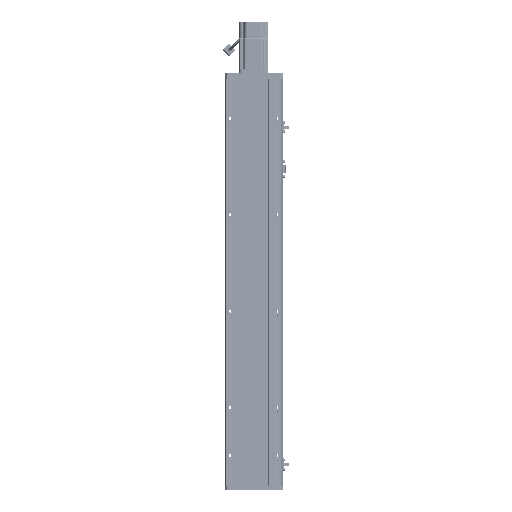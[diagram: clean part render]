
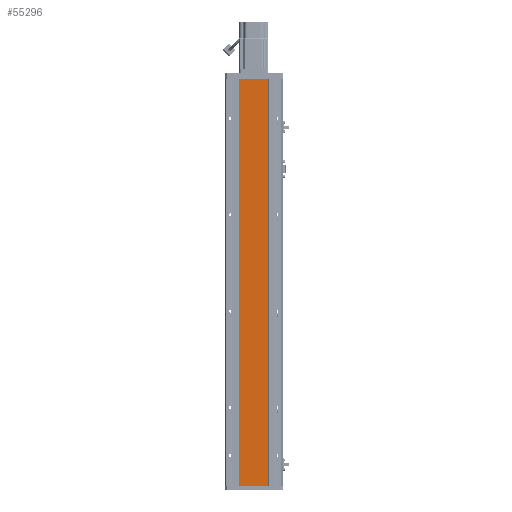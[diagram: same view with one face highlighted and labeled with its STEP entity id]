
A CAD part, front view. The second image highlights one B-rep face of the part: STEP entity #55296.
In plain terms, the highlighted planar face has unit normal (0, -1, 0).
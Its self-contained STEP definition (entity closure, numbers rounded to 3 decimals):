
#5113 = VERTEX_POINT ( 'NONE', #49992 ) ;
#6751 = EDGE_CURVE ( 'NONE', #5113, #107583, #53173, .T. ) ;
#6943 = VECTOR ( 'NONE', #34440, 1000. ) ;
#7137 = VECTOR ( 'NONE', #92124, 1000. ) ;
#13467 = CARTESIAN_POINT ( 'NONE',  ( 30., 0., -846.5 ) ) ;
#13512 = VERTEX_POINT ( 'NONE', #17547 ) ;
#17547 = CARTESIAN_POINT ( 'NONE',  ( 30., 0., -846.5 ) ) ;
#17862 = EDGE_CURVE ( 'NONE', #49352, #107583, #98499, .T. ) ;
#17907 = DIRECTION ( 'NONE',  ( 0., 1., 0. ) ) ;
#23231 = AXIS2_PLACEMENT_3D ( 'NONE', #70007, #17907, #78729 ) ;
#24459 = LINE ( 'NONE', #13467, #91126 ) ;
#34440 = DIRECTION ( 'NONE',  ( 0., 0., 1. ) ) ;
#36542 = ORIENTED_EDGE ( 'NONE', *, *, #50951, .T. ) ;
#40342 = ORIENTED_EDGE ( 'NONE', *, *, #17862, .T. ) ;
#45236 = CARTESIAN_POINT ( 'NONE',  ( -30., 0., 0. ) ) ;
#46342 = ORIENTED_EDGE ( 'NONE', *, *, #111399, .F. ) ;
#49352 = VERTEX_POINT ( 'NONE', #80854 ) ;
#49992 = CARTESIAN_POINT ( 'NONE',  ( -30., 0., -846.5 ) ) ;
#50951 = EDGE_CURVE ( 'NONE', #13512, #49352, #24459, .T. ) ;
#53173 = LINE ( 'NONE', #95322, #6943 ) ;
#55296 = ADVANCED_FACE ( 'NONE', ( #91703 ), #61227, .F. ) ;
#61227 = PLANE ( 'NONE',  #23231 ) ;
#61511 = LINE ( 'NONE', #100874, #7137 ) ;
#70007 = CARTESIAN_POINT ( 'NONE',  ( 30., 0., -846.5 ) ) ;
#75384 = VECTOR ( 'NONE', #99933, 1000. ) ;
#78729 = DIRECTION ( 'NONE',  ( -1., 0., 0. ) ) ;
#80854 = CARTESIAN_POINT ( 'NONE',  ( 30., 0., 0. ) ) ;
#80871 = EDGE_LOOP ( 'NONE', ( #40342, #91809, #46342, #36542 ) ) ;
#82033 = CARTESIAN_POINT ( 'NONE',  ( 30., 0., 0. ) ) ;
#91126 = VECTOR ( 'NONE', #109226, 1000. ) ;
#91703 = FACE_OUTER_BOUND ( 'NONE', #80871, .T. ) ;
#91809 = ORIENTED_EDGE ( 'NONE', *, *, #6751, .F. ) ;
#92124 = DIRECTION ( 'NONE',  ( -1., 0., 0. ) ) ;
#95322 = CARTESIAN_POINT ( 'NONE',  ( -30., 0., -846.5 ) ) ;
#98499 = LINE ( 'NONE', #82033, #75384 ) ;
#99933 = DIRECTION ( 'NONE',  ( -1., 0., 0. ) ) ;
#100874 = CARTESIAN_POINT ( 'NONE',  ( 30., 0., -846.5 ) ) ;
#107583 = VERTEX_POINT ( 'NONE', #45236 ) ;
#109226 = DIRECTION ( 'NONE',  ( 0., 0., 1. ) ) ;
#111399 = EDGE_CURVE ( 'NONE', #13512, #5113, #61511, .T. ) ;
